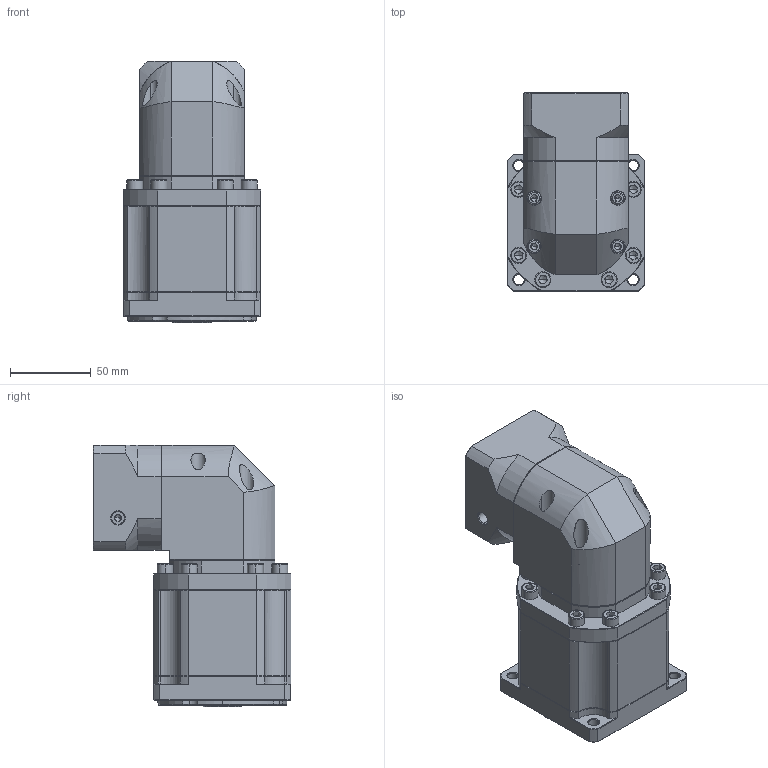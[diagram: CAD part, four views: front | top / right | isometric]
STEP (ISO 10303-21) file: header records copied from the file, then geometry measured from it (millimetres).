
FILE_DESCRIPTION (( 'STEP AP214' ), '1' );
FILE_NAME ('ZBR090-K15-L3-P2-11-60-75-M5.step', '2023-08-19T04:02:39', ( '' ), ( '' ), 'SwSTEP 2.0', 'SolidWorks 2016', '' );
FILE_SCHEMA (( 'AUTOMOTIVE_DESIGN' ));
Length unit declared in the file: millimetre
Products named in the file (1): ZBR090-K15-L3-P2-11-60-75-M5
Bounding box: 85 x 122.7 x 162 mm (x, y, z)
Volume: 918889.3 mm3; surface area: 105313.2 mm2
Topology: 5 solids, 5 shells, 2388 faces, 6333 edges, 4046 vertices
Faces by surface type: plane 1171, bspline 428, cylinder 418, cone 363, torus 8
Entity records: 123764 total; most frequent: CARTESIAN_POINT 41466, ORIENTED_EDGE 12578, DIRECTION 10122, EDGE_CURVE 6289, VERTEX_POINT 4046, LINE 3990, VECTOR 3990, AXIS2_PLACEMENT_3D 3066
